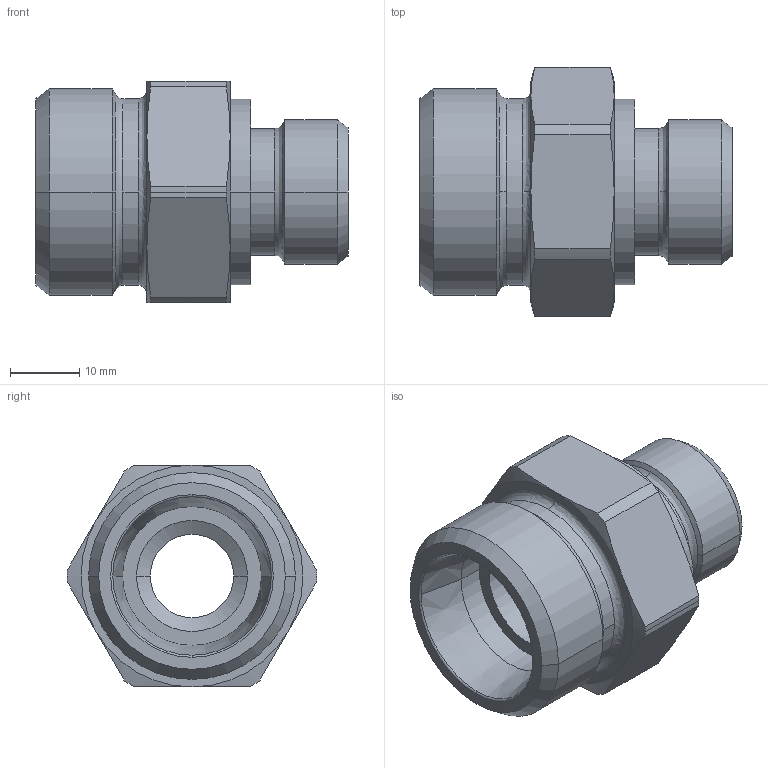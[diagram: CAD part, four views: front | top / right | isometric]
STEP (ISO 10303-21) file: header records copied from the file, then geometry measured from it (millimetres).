
FILE_DESCRIPTION((''),'2;1');
FILE_NAME('100538.stp','2007-10-30T14:34:40',(''),(''),'AutoCAD STEP 2000i','AutoCAD 2000i',', , ');
FILE_SCHEMA(('CONFIG_CONTROL_DESIGN'));
Length unit declared in the file: millimetre
Products named in the file (2): 100538.0; CHIAVE SMUSSATA#0
Assembly tree (1 placements, depth 2):
  100538.0
    CHIAVE SMUSSATA#0
Bounding box: 45 x 36 x 32 mm (x, y, z)
Volume: 18183.4 mm3; surface area: 7636.9 mm2
Topology: 1 solids, 1 shells, 79 faces, 193 edges, 121 vertices
Faces by surface type: cylinder 26, cone 26, plane 13, bspline 12, torus 2
Entity records: 2935 total; most frequent: CARTESIAN_POINT 971, DIRECTION 430, ORIENTED_EDGE 386, EDGE_CURVE 193, AXIS2_PLACEMENT_3D 192, CIRCLE 123, VERTEX_POINT 121, EDGE_LOOP 86
